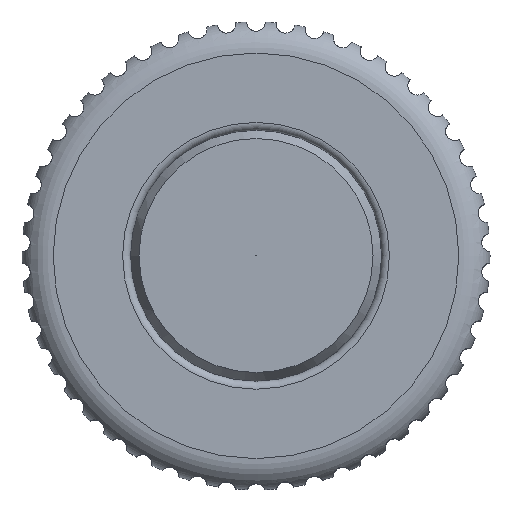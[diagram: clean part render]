
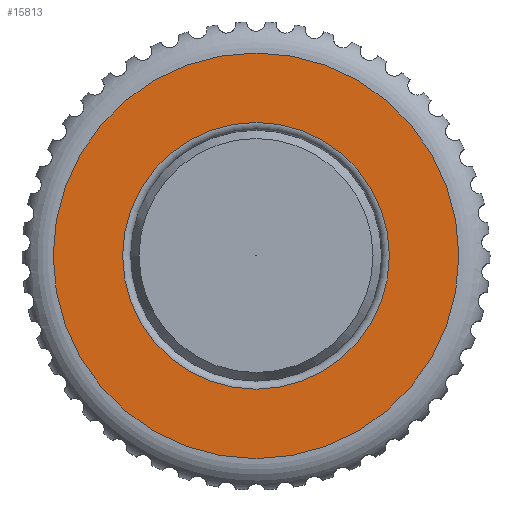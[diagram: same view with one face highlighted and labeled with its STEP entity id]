
A CAD part, top view. The second image highlights one B-rep face of the part: STEP entity #15813.
In plain terms, the highlighted planar face has unit normal (0, 0, 1).
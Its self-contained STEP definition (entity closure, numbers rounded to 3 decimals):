
#7125=CARTESIAN_POINT('',(13.,0.101,16.36));
#7126=VERTEX_POINT('',#7125);
#7994=CARTESIAN_POINT('',(-0.,-12.899,16.36));
#7995=VERTEX_POINT('',#7994);
#7996=CARTESIAN_POINT('',(0.,0.101,16.36));
#7997=DIRECTION('',(0.,-0.,1.));
#7998=DIRECTION('',(0.,-1.,-0.));
#7999=AXIS2_PLACEMENT_3D('',#7996,#7997,#7998);
#8000=CIRCLE('',#7999,13.);
#8001=EDGE_CURVE('',#7995,#7126,#8000,.T.);
#8003=CARTESIAN_POINT('',(0.,0.101,16.36));
#8004=DIRECTION('',(0.,-0.,1.));
#8005=DIRECTION('',(0.,-1.,-0.));
#8006=AXIS2_PLACEMENT_3D('',#8003,#8004,#8005);
#8007=CIRCLE('',#8006,13.);
#8008=EDGE_CURVE('',#7126,#7995,#8007,.T.);
#15784=CARTESIAN_POINT('',(0.,-8.449,16.36));
#15785=DIRECTION('',(0.,-0.,1.));
#15786=DIRECTION('',(1.,0.,0.));
#15787=AXIS2_PLACEMENT_3D('',#15784,#15785,#15786);
#15788=PLANE('',#15787);
#15789=ORIENTED_EDGE('',*,*,#8001,.T.);
#15790=ORIENTED_EDGE('',*,*,#8008,.T.);
#15791=EDGE_LOOP('',(#15789,#15790));
#15792=FACE_BOUND('',#15791,.T.);
#15793=CARTESIAN_POINT('',(8.55,0.101,16.36));
#15794=VERTEX_POINT('',#15793);
#15795=CARTESIAN_POINT('',(-0.,-8.449,16.36));
#15796=VERTEX_POINT('',#15795);
#15797=CARTESIAN_POINT('',(0.,0.101,16.36));
#15798=DIRECTION('',(0.,-0.,1.));
#15799=DIRECTION('',(0.,-1.,-0.));
#15800=AXIS2_PLACEMENT_3D('',#15797,#15798,#15799);
#15801=CIRCLE('',#15800,8.55);
#15802=EDGE_CURVE('',#15794,#15796,#15801,.T.);
#15803=ORIENTED_EDGE('',*,*,#15802,.F.);
#15804=CARTESIAN_POINT('',(0.,0.101,16.36));
#15805=DIRECTION('',(0.,-0.,1.));
#15806=DIRECTION('',(0.,-1.,-0.));
#15807=AXIS2_PLACEMENT_3D('',#15804,#15805,#15806);
#15808=CIRCLE('',#15807,8.55);
#15809=EDGE_CURVE('',#15796,#15794,#15808,.T.);
#15810=ORIENTED_EDGE('',*,*,#15809,.F.);
#15811=EDGE_LOOP('',(#15803,#15810));
#15812=FACE_BOUND('',#15811,.T.);
#15813=ADVANCED_FACE('',(#15792,#15812),#15788,.T.);
